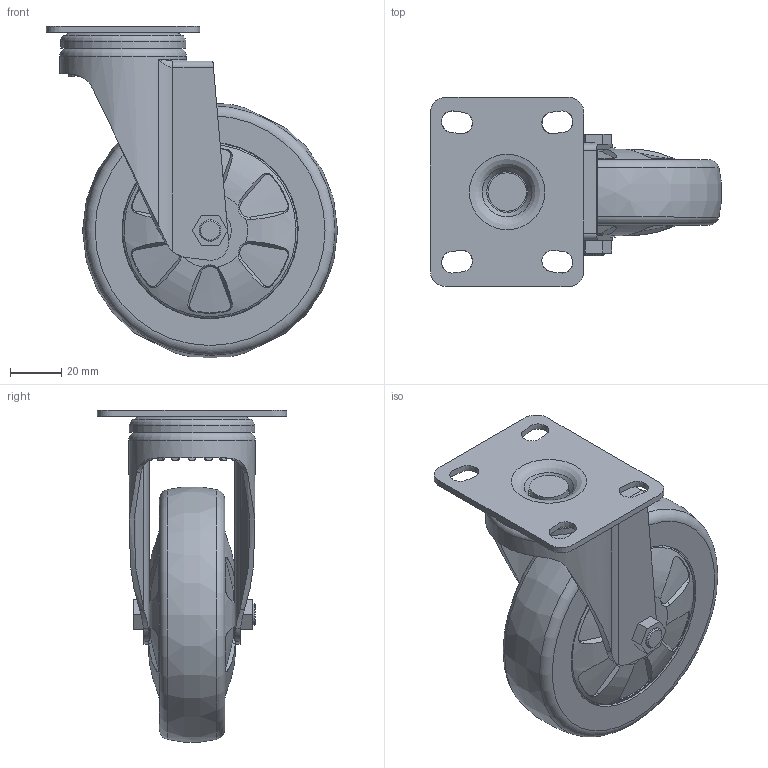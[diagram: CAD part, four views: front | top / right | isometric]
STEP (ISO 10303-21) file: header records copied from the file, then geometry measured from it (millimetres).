
FILE_DESCRIPTION(/* description */ (''),/* implementation_level */ '2;1');
FILE_NAME(/* name */ '20C25_4_F.stp',/* time_stamp */ '2022-10-06T15:23:16+08:00',/* author */ (''),/* organization */ (''),/* preprocessor_version */ 'ST-DEVELOPER v14',/* originating_system */ 'SIEMENS PLM Software NX 8.0',/* authorisation */ '');
FILE_SCHEMA (('AUTOMOTIVE_DESIGN { 1 0 10303 214 3 1 1 1 }'));
Length unit declared in the file: millimetre
Products named in the file (1): 20C25_4_F
Bounding box: 113.87 x 74 x 129.87 mm (x, y, z)
Volume: 202184 mm3; surface area: 85608.7 mm2
Topology: 1 solids, 4 shells, 767 faces, 2216 edges, 1451 vertices
Faces by surface type: plane 334, bspline 147, cylinder 119, torus 72, cone 57, sphere 33, extrusion 5
Full cylindrical faces by diameter (mm): 8.466 x1, 8.5 x1, 10 x1, 12.2 x1, 15 x2, 16.667 x3, 23.333 x2, 24.05 x1, 25 x1, 25.5 x2, 28.56 x1, 45 x1, 45.5 x1, 49 x1, 49.5 x1
Entity records: 35154 total; most frequent: CARTESIAN_POINT 18235, ORIENTED_EDGE 3980, DIRECTION 2676, EDGE_CURVE 1990, VERTEX_POINT 1345, AXIS2_PLACEMENT_3D 1023, EDGE_LOOP 913, B_SPLINE_CURVE_WITH_KNOTS 875
